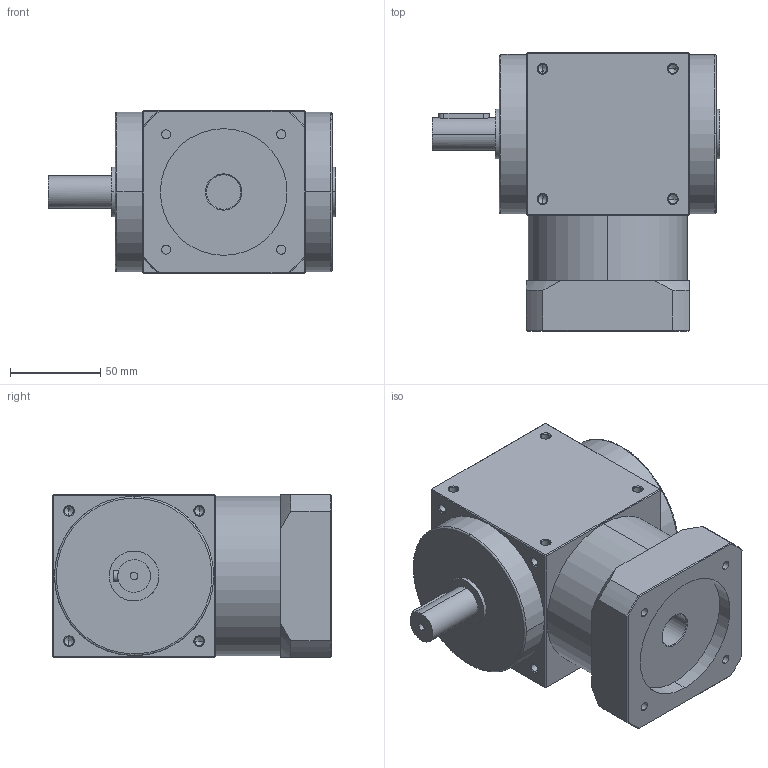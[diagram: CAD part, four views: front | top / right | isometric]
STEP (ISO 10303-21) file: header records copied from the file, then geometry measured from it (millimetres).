
FILE_DESCRIPTION (( 'STEP AP214' ), '1' );
FILE_NAME ('AT090-FL-001 19-70-90-M6.STEP', '2020-10-08T09:44:58', ( '微软用户' ), ( '微软中国' ), 'SwSTEP 2.0', 'SolidWorks 2014', '' );
FILE_SCHEMA (( 'AUTOMOTIVE_DESIGN' ));
Length unit declared in the file: millimetre
Products named in the file (2): AT090-FL-001 19-70-90-M6
Bounding box: 159 x 154 x 90 mm (x, y, z)
Volume: 1313888.5 mm3; surface area: 102462.7 mm2
Topology: 2 solids, 2 shells, 261 faces, 666 edges, 380 vertices
Faces by surface type: cylinder 114, cone 90, plane 53, bspline 4
Entity records: 12884 total; most frequent: CARTESIAN_POINT 4122, ORIENTED_EDGE 1252, DIRECTION 1176, EDGE_CURVE 626, AXIS2_PLACEMENT_3D 455, VERTEX_POINT 380, EDGE_LOOP 296, LINE 266
